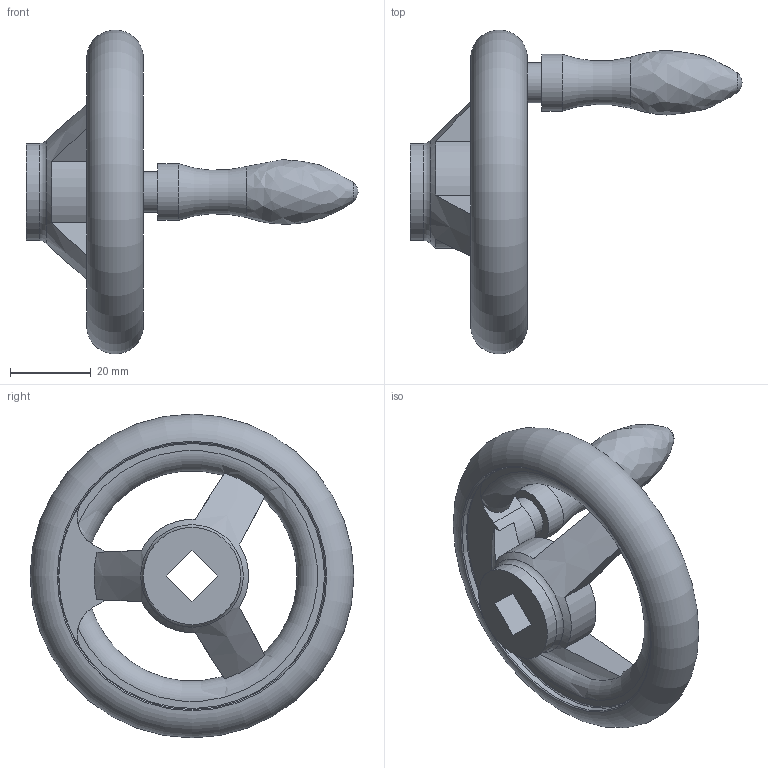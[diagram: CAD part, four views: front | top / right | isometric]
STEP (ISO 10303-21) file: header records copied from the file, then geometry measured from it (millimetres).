
FILE_DESCRIPTION( ( 'STEP AP203' ), '1' );
FILE_NAME( 'C:/Temp/Ganter_Step_05_03_2020/data/1_3/din_950/din_950_v/din_950_v_d/Handwheel DIN 950-GG-80-V9-D.stp', '2020-03-05T10:31:36', ( 'License CC BY-ND 4.0' ), ( 'CADENAS' ), ' ', 'PARTsolutions', ' ' );
FILE_SCHEMA( ( 'CONFIG_CONTROL_DESIGN' ) );
Length unit declared in the file: millimetre
Products named in the file (1): _Handwheel DIN 950-GG-80-V9-D
Bounding box: 82 x 79.97 x 79.97 mm (x, y, z)
Volume: 46760.1 mm3; surface area: 16008.7 mm2
Topology: 1 solids, 1 shells, 44 faces, 123 edges, 78 vertices
Faces by surface type: plane 17, cylinder 12, torus 11, cone 2, bspline 1, sphere 1
Full cylindrical faces by diameter (mm): 10 x1, 14 x1, 24 x2, 66 x2
Entity records: 1603 total; most frequent: CARTESIAN_POINT 536, DIRECTION 208, ORIENTED_EDGE 198, EDGE_CURVE 99, AXIS2_PLACEMENT_3D 92, VERTEX_POINT 74, EDGE_LOOP 67, FACE_OUTER_BOUND 59
